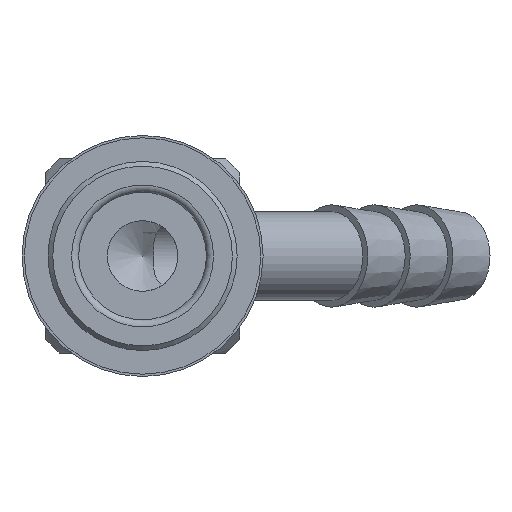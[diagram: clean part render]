
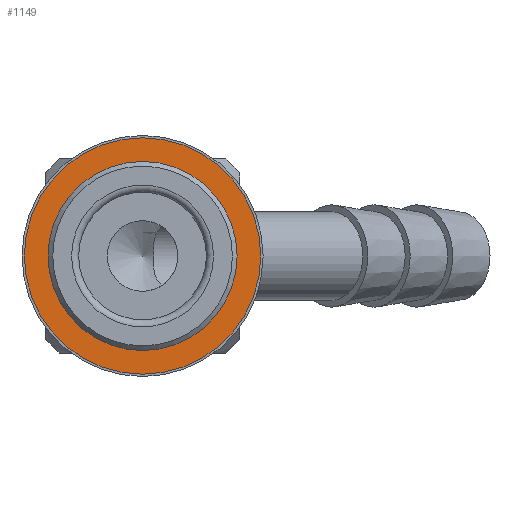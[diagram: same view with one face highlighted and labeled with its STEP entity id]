
A CAD part, left-side view. The second image highlights one B-rep face of the part: STEP entity #1149.
In plain terms, the highlighted planar face has unit normal (-1, 0, 0).
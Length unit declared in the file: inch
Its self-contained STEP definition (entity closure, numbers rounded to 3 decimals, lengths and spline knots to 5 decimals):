
#153=PLANE('',#1279);
#260=CIRCLE('',#1278,0.268);
#261=CIRCLE('',#1280,0.335);
#380=ORIENTED_EDGE('',*,*,#670,.F.);
#381=ORIENTED_EDGE('',*,*,#669,.T.);
#669=EDGE_CURVE('',#810,#810,#260,.T.);
#670=EDGE_CURVE('',#811,#811,#261,.T.);
#810=VERTEX_POINT('',#1894);
#811=VERTEX_POINT('',#1897);
#905=EDGE_LOOP('',(#380));
#906=EDGE_LOOP('',(#381));
#1025=FACE_BOUND('',#905,.T.);
#1026=FACE_BOUND('',#906,.T.);
#1149=ADVANCED_FACE('',(#1025,#1026),#153,.F.);
#1278=AXIS2_PLACEMENT_3D('',#1893,#1508,#1509);
#1279=AXIS2_PLACEMENT_3D('',#1895,#1510,#1511);
#1280=AXIS2_PLACEMENT_3D('',#1896,#1512,#1513);
#1508=DIRECTION('',(1.,0.,0.));
#1509=DIRECTION('',(0.,0.,-1.));
#1510=DIRECTION('',(1.,0.,0.));
#1511=DIRECTION('',(0.,0.,-1.));
#1512=DIRECTION('',(1.,0.,0.));
#1513=DIRECTION('',(0.,0.,-1.));
#1893=CARTESIAN_POINT('',(0.,0.,0.));
#1894=CARTESIAN_POINT('',(0.,0.,-0.268));
#1895=CARTESIAN_POINT('',(0.,0.268,0.));
#1896=CARTESIAN_POINT('',(0.,0.,0.));
#1897=CARTESIAN_POINT('',(0.,0.,-0.335));
